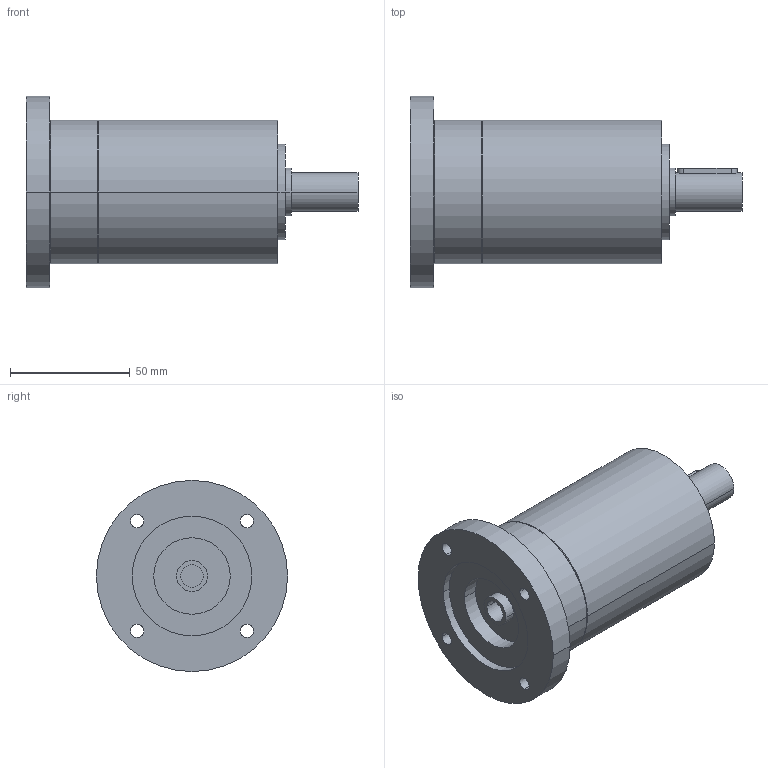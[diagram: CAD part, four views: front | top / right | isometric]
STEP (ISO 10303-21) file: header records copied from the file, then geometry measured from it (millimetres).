
FILE_DESCRIPTION(('CoCreate Modeling STEP Export'),'2;1');
FILE_NAME('GPR75_ig-9-12-16-20-24-30-36_16_B14_9.52_P13.stp','2014-08-25T16:06:40',(''),(''),'CoCreate Modeling STEP processor for AP214 (Solid Model)','CoCreate Modeling 16.00C 25-Feb-2009 (C) Parametric Technology GmbH','');
FILE_SCHEMA(('AUTOMOTIVE_DESIGN { 1 0 10303 214 1 1 1 1 }'));
Length unit declared in the file: millimetre
Products named in the file (2): GPR75_ig-9-12-16-20-24-30-36_16_B14_9.52_P13
Assembly tree (1 placements, depth 2):
  GPR75_ig-9-12-16-20-24-30-36_16_B14_9.52_P13
    GPR75_ig-9-12-16-20-24-30-36_16_B14_9.52_P13
Bounding box: 138.9 x 80 x 80 mm (x, y, z)
Volume: 314736.1 mm3; surface area: 36355.7 mm2
Topology: 1 solids, 1 shells, 80 faces, 214 edges, 148 vertices
Faces by surface type: cylinder 48, plane 26, cone 6
Entity records: 2100 total; most frequent: ORIENTED_EDGE 424, CARTESIAN_POINT 379, DIRECTION 274, EDGE_CURVE 212, VERTEX_POINT 148, AXIS2_PLACEMENT_3D 107, EDGE_LOOP 102, FACE_OUTER_BOUND 80
